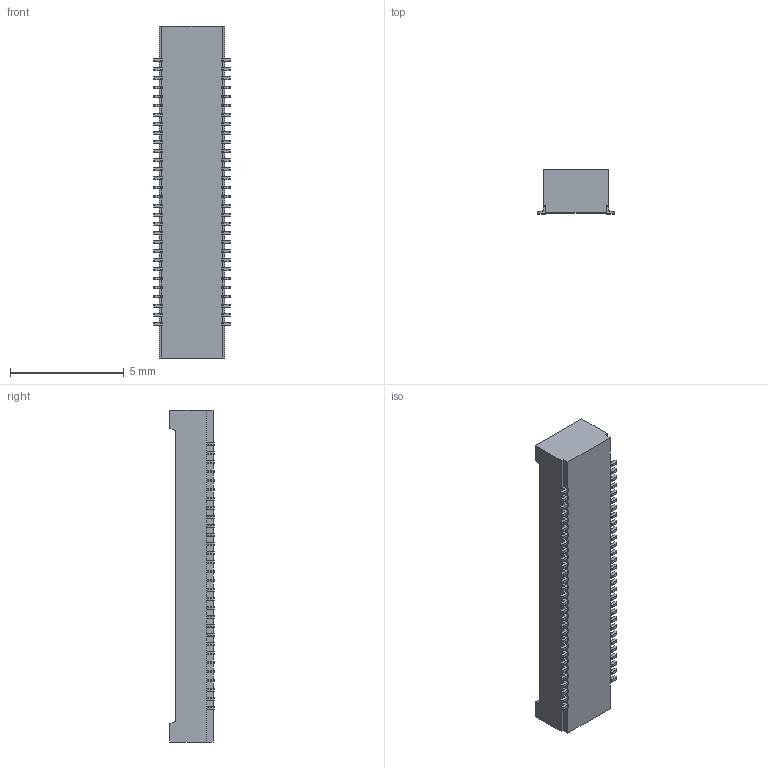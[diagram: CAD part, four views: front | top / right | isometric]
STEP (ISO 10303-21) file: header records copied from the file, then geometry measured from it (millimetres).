
FILE_DESCRIPTION (( 'STEP AP203' ), '1' );
FILE_NAME ('HC-PBB40C-60DS-0.4V-1.95-06 (0.4 邧羞 泂え 譫釱 BTB-HCTL).STEP', '2026-01-23T09:42:52', ( '' ), ( '' ), 'SwSTEP 2.0', 'SolidWorks 2025', '' );
FILE_SCHEMA (( 'CONFIG_CONTROL_DESIGN' ));
Length unit declared in the file: millimetre
Products named in the file (1): HC-PBB40C-60DS-0.4V-1.95-06 (0.4 双槽 贴片 母座 BTB-HCTL)
Bounding box: 3.38 x 1.95 x 14.6 mm (x, y, z)
Volume: 53.3 mm3; surface area: 231.5 mm2
Topology: 1 solids, 1 shells, 1285 faces, 3642 edges, 2420 vertices
Faces by surface type: plane 895, cylinder 390
Entity records: 41601 total; most frequent: CARTESIAN_POINT 7348, ORIENTED_EDGE 7284, DIRECTION 6994, EDGE_CURVE 3642, VECTOR 2862, LINE 2862, VERTEX_POINT 2420, AXIS2_PLACEMENT_3D 2066
